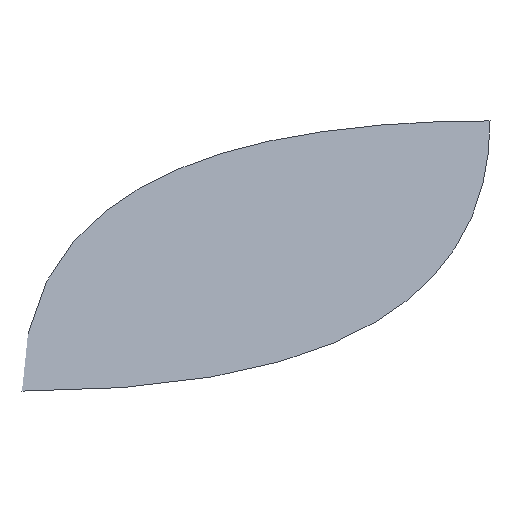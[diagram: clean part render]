
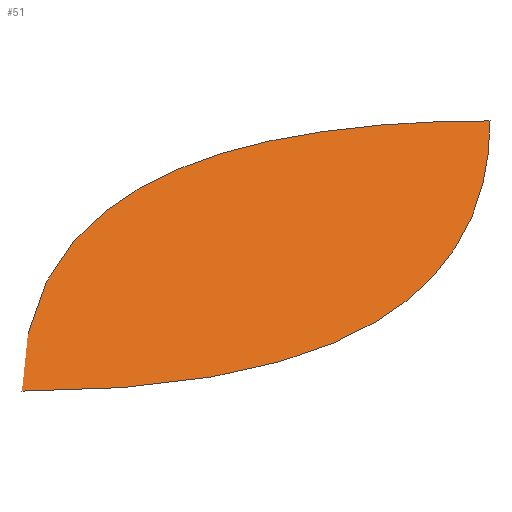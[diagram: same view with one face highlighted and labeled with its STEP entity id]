
A CAD part, isometric view. The second image highlights one B-rep face of the part: STEP entity #51.
In plain terms, the highlighted free-form (B-spline) face has degree [2, 2] with [3, 3] control points.
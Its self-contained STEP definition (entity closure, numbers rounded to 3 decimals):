
#1=CARTESIAN_POINT('',(0.,0.,0.));
#2=CARTESIAN_POINT('',(0.25,0.,0.));
#3=CARTESIAN_POINT('',(0.5,-0.5,0.));
#4=CARTESIAN_POINT('',(0.5,0.5,0.));
#5=CARTESIAN_POINT('',(1.,0.,0.));
#10=VERTEX_POINT('',#1);
#11=VERTEX_POINT('',#5);
#20=B_SPLINE_CURVE_WITH_KNOTS('east boundary',2,(#1,#4,#5),.UNSPECIFIED.,.F.,.F.,(3,3),(0.,1.),.UNSPECIFIED.);
#21=B_SPLINE_CURVE_WITH_KNOTS('north boundary',2,(#1,#3,#5),.UNSPECIFIED.,.F.,.F.,(3,3),(0.,1.),.UNSPECIFIED.);
#30=EDGE_CURVE('',#10,#11,#20,.T.);
#31=EDGE_CURVE('',#10,#11,#21,.T.);
#40=ORIENTED_EDGE('',*,*,#30,.F.);
#41=ORIENTED_EDGE('',*,*,#31,.T.);
#42=EDGE_LOOP('',(#40,#41));
#43=FACE_OUTER_BOUND('',#42,.T.);
#50=B_SPLINE_SURFACE_WITH_KNOTS('two collapsed sides',2,2,
((#1,#1,#1),(#1,#2,#3),(#1,#4,#5)),
.UNSPECIFIED.,.F.,.F.,.F.,(3,3),(3,3),(0.,1.),(0.,1.),.UNSPECIFIED.);
#51=ADVANCED_FACE('',(#43),#50,.T.);
